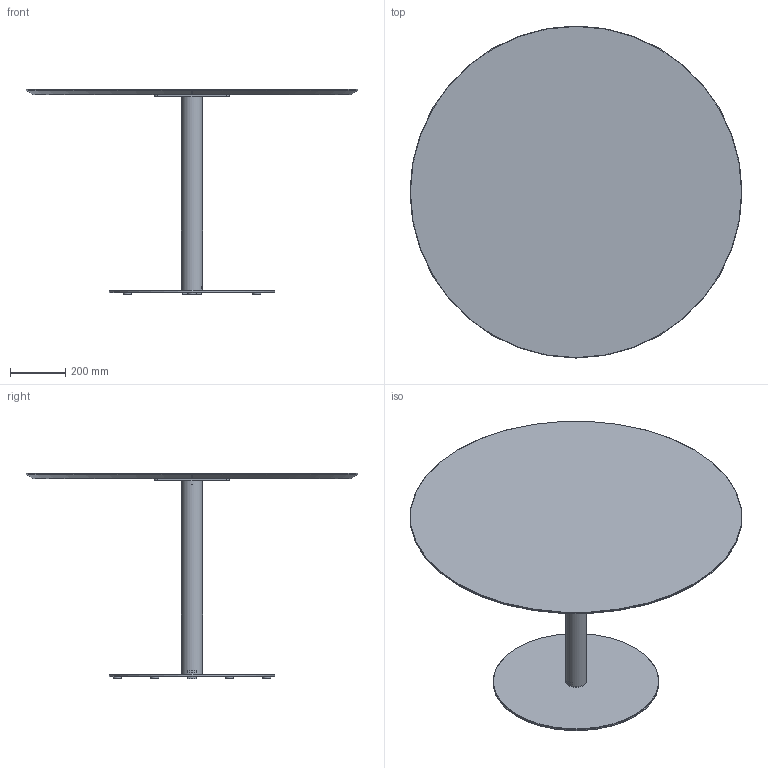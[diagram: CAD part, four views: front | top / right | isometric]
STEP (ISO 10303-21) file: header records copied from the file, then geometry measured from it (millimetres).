
FILE_DESCRIPTION( ('This file contains a STEP AP42 implementation' ,'as created by ZW3D STEP Interface translator.') ,'2;1' );
FILE_NAME( 'Henri - B_Rond - F1 - M5 - 1200 x 1200 x 750.stp' ,'24 912.152057', (''), ('ZWCAD Software Co.'), 'Version 1.0', 'ZW3D to STEP translator', '' );
FILE_SCHEMA(('AUTOMOTIVE_DESIGN { 1 0 10303 214 1 1 1 1 }'));
Length unit declared in the file: millimetre
Products named in the file (14): 0; PIED BISTROT PARAMETRIQUE_; COLONNE ACIER Ø76 V.02_; TUB-D076-02_; PLA-R76B-01_; CROIX ACIER 370 V.02_; CRX-X370-02_; SOCLE ACIER C Ø600 V.02_; SCL-D600-02_; PLA-R30A-01_; PLA-R30A-01; WUERTH 0276063020 Euro-screw 6.3x2 Verzinkt_; PLATEAU BISTROT PARAMETRIQUE_; insert_m6_13_
Assembly tree (24 placements, depth 3):
  0
  PIED BISTROT PARAMETRIQUE_
    COLONNE ACIER Ø76 V.02_
      TUB-D076-02_
      PLA-R76B-01_  x2
    CROIX ACIER 370 V.02_
      CRX-X370-02_
    SOCLE ACIER C Ø600 V.02_
      SCL-D600-02_
      PLA-R30A-01_
      PLA-R30A-01  x5
    WUERTH 0276063020 Euro-screw 6.3x2 Verzinkt_
    PLATEAU BISTROT PARAMETRIQUE_
      insert_m6_13_  x8
Bounding box: 1200 x 1200 x 744 mm (x, y, z)
Volume: 25112174.9 mm3; surface area: 3398419.2 mm2
Topology: 21 solids, 21 shells, 524 faces, 1273 edges, 802 vertices
Faces by surface type: plane 254, bspline 125, cylinder 99, cone 45, torus 1
Full cylindrical faces by diameter (mm): 4.88 x1, 6 x8, 6.3 x1, 8 x47, 12 x2, 14 x2, 30 x6, 72 x1, 76 x1, 600 x1
Entity records: 11742 total; most frequent: CARTESIAN_POINT 3326, ORIENTED_EDGE 1526, DIRECTION 1416, EDGE_CURVE 763, VERTEX_POINT 490, VECTOR 476, LINE 476, AXIS2_PLACEMENT_3D 470
